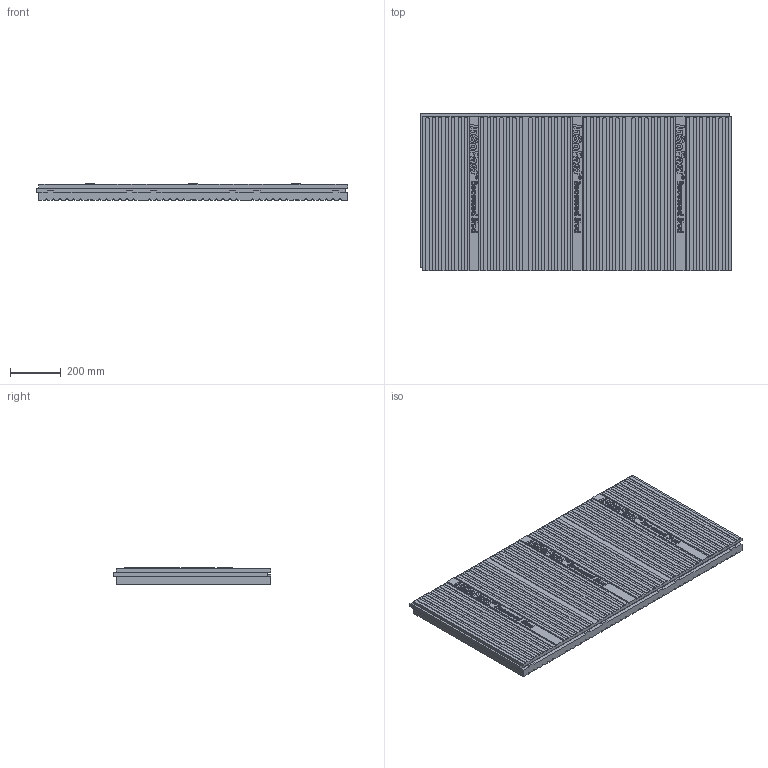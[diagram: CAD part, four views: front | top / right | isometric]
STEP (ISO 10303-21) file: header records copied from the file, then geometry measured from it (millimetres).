
FILE_DESCRIPTION (( 'STEP AP214' ), '1' );
FILE_NAME ('EXE Website.STEP', '2020-06-16T21:56:59', ( '' ), ( '' ), 'SwSTEP 2.0', 'SolidWorks 2020', '' );
FILE_SCHEMA (( 'AUTOMOTIVE_DESIGN' ));
Length unit declared in the file: inch
Products named in the file (1): EXE Website
Bounding box: 1228.72 x 622.3 x 64.52 mm (x, y, z)
Volume: 45290790.2 mm3; surface area: 2181863.4 mm2
Topology: 4 solids, 4 shells, 1308 faces, 3608 edges, 2404 vertices
Faces by surface type: plane 750, bspline 468, cylinder 78, cone 12
Entity records: 101924 total; most frequent: CARTESIAN_POINT 55268, ORIENTED_EDGE 7216, DIRECTION 4162, EDGE_CURVE 3608, VERTEX_POINT 2404, LINE 2120, VECTOR 2120, EDGE_LOOP 1404
